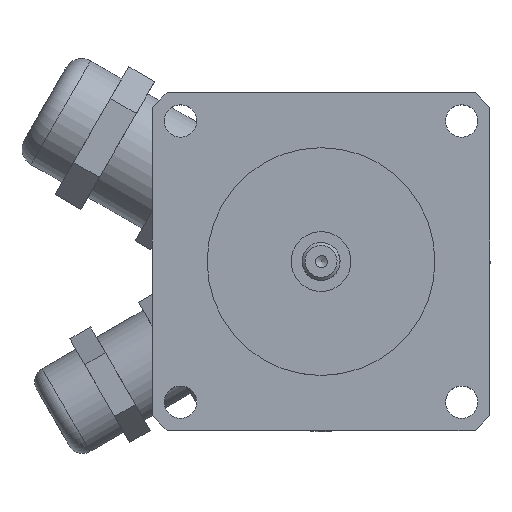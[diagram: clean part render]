
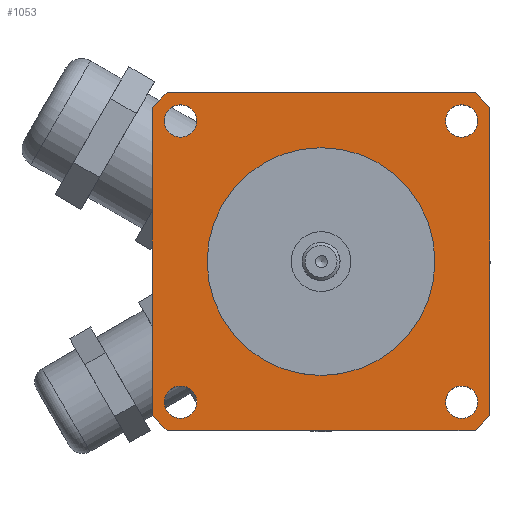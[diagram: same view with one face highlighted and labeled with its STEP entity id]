
A CAD part, top view. The second image highlights one B-rep face of the part: STEP entity #1053.
In plain terms, the highlighted planar face has unit normal (0, 0, 1).
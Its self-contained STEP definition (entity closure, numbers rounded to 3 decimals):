
#685=CARTESIAN_POINT('',(19.05,0.,42.7));
#686=VERTEX_POINT('',#685);
#687=CARTESIAN_POINT('',(0.,0.,42.7));
#688=DIRECTION('',(0.0,0.0,-1.0));
#689=DIRECTION('',(-1.0,0.0,0.0));
#690=AXIS2_PLACEMENT_3D('',#687,#688,#689);
#691=CIRCLE('',#690,19.05);
#692=EDGE_CURVE('',#686,#686,#691,.T.);
#735=CARTESIAN_POINT('',(26.211,23.511,42.7));
#736=VERTEX_POINT('',#735);
#737=CARTESIAN_POINT('',(23.511,23.511,42.7));
#738=DIRECTION('',(0.0,0.0,-1.0));
#739=DIRECTION('',(-1.0,0.0,0.0));
#740=AXIS2_PLACEMENT_3D('',#737,#738,#739);
#741=CIRCLE('',#740,2.7);
#742=EDGE_CURVE('',#736,#736,#741,.T.);
#755=CARTESIAN_POINT('',(26.211,-23.511,42.7));
#756=VERTEX_POINT('',#755);
#757=CARTESIAN_POINT('',(23.511,-23.511,42.7));
#758=DIRECTION('',(0.0,0.0,-1.0));
#759=DIRECTION('',(-1.0,0.0,0.0));
#760=AXIS2_PLACEMENT_3D('',#757,#758,#759);
#761=CIRCLE('',#760,2.7);
#762=EDGE_CURVE('',#756,#756,#761,.T.);
#775=CARTESIAN_POINT('',(-20.811,23.511,42.7));
#776=VERTEX_POINT('',#775);
#777=CARTESIAN_POINT('',(-23.511,23.511,42.7));
#778=DIRECTION('',(0.0,0.0,-1.0));
#779=DIRECTION('',(-1.0,0.0,0.0));
#780=AXIS2_PLACEMENT_3D('',#777,#778,#779);
#781=CIRCLE('',#780,2.7);
#782=EDGE_CURVE('',#776,#776,#781,.T.);
#795=CARTESIAN_POINT('',(-20.811,-23.511,42.7));
#796=VERTEX_POINT('',#795);
#797=CARTESIAN_POINT('',(-23.511,-23.511,42.7));
#798=DIRECTION('',(0.0,0.0,-1.0));
#799=DIRECTION('',(-1.0,0.0,0.0));
#800=AXIS2_PLACEMENT_3D('',#797,#798,#799);
#801=CIRCLE('',#800,2.7);
#802=EDGE_CURVE('',#796,#796,#801,.T.);
#815=CARTESIAN_POINT('',(25.75,28.25,42.7));
#816=VERTEX_POINT('',#815);
#817=CARTESIAN_POINT('',(28.25,25.75,42.7));
#818=VERTEX_POINT('',#817);
#819=CARTESIAN_POINT('',(25.75,28.25,42.7));
#820=DIRECTION('',(0.707,-0.707,0.0));
#821=VECTOR('',#820,3.536);
#822=LINE('',#819,#821);
#823=EDGE_CURVE('',#816,#818,#822,.T.);
#846=CARTESIAN_POINT('',(28.25,-25.75,42.7));
#847=VERTEX_POINT('',#846);
#848=CARTESIAN_POINT('',(28.25,25.75,42.7));
#849=DIRECTION('',(0.0,-1.0,0.0));
#850=VECTOR('',#849,51.5);
#851=LINE('',#848,#850);
#852=EDGE_CURVE('',#818,#847,#851,.T.);
#873=CARTESIAN_POINT('',(25.75,-28.25,42.7));
#874=VERTEX_POINT('',#873);
#875=CARTESIAN_POINT('',(28.25,-25.75,42.7));
#876=DIRECTION('',(-0.707,-0.707,0.0));
#877=VECTOR('',#876,3.536);
#878=LINE('',#875,#877);
#879=EDGE_CURVE('',#847,#874,#878,.T.);
#897=CARTESIAN_POINT('',(-25.75,-28.25,42.7));
#898=VERTEX_POINT('',#897);
#899=CARTESIAN_POINT('',(25.75,-28.25,42.7));
#900=DIRECTION('',(-1.0,0.0,0.0));
#901=VECTOR('',#900,51.5);
#902=LINE('',#899,#901);
#903=EDGE_CURVE('',#874,#898,#902,.T.);
#923=CARTESIAN_POINT('',(-28.25,-25.75,42.7));
#924=VERTEX_POINT('',#923);
#925=CARTESIAN_POINT('',(-25.75,-28.25,42.7));
#926=DIRECTION('',(-0.707,0.707,0.0));
#927=VECTOR('',#926,3.536);
#928=LINE('',#925,#927);
#929=EDGE_CURVE('',#898,#924,#928,.T.);
#947=CARTESIAN_POINT('',(-28.25,25.75,42.7));
#948=VERTEX_POINT('',#947);
#949=CARTESIAN_POINT('',(-28.25,-25.75,42.7));
#950=DIRECTION('',(0.0,1.0,0.0));
#951=VECTOR('',#950,51.5);
#952=LINE('',#949,#951);
#953=EDGE_CURVE('',#924,#948,#952,.T.);
#973=CARTESIAN_POINT('',(-25.75,28.25,42.7));
#974=VERTEX_POINT('',#973);
#975=CARTESIAN_POINT('',(-28.25,25.75,42.7));
#976=DIRECTION('',(0.707,0.707,0.0));
#977=VECTOR('',#976,3.536);
#978=LINE('',#975,#977);
#979=EDGE_CURVE('',#948,#974,#978,.T.);
#997=CARTESIAN_POINT('',(-25.75,28.25,42.7));
#998=DIRECTION('',(1.0,0.0,0.0));
#999=VECTOR('',#998,51.5);
#1000=LINE('',#997,#999);
#1001=EDGE_CURVE('',#974,#816,#1000,.T.);
#1023=CARTESIAN_POINT('',(0.,0.,42.7));
#1024=DIRECTION('',(0.0,0.0,1.0));
#1025=DIRECTION('',(1.0,0.0,0.0));
#1026=AXIS2_PLACEMENT_3D('',#1023,#1024,#1025);
#1027=PLANE('',#1026);
#1028=ORIENTED_EDGE('',*,*,#823,.F.);
#1029=ORIENTED_EDGE('',*,*,#1001,.F.);
#1030=ORIENTED_EDGE('',*,*,#979,.F.);
#1031=ORIENTED_EDGE('',*,*,#953,.F.);
#1032=ORIENTED_EDGE('',*,*,#929,.F.);
#1033=ORIENTED_EDGE('',*,*,#903,.F.);
#1034=ORIENTED_EDGE('',*,*,#879,.F.);
#1035=ORIENTED_EDGE('',*,*,#852,.F.);
#1036=EDGE_LOOP('',(#1028,#1029,#1030,#1031,#1032,#1033,#1034,#1035));
#1037=FACE_OUTER_BOUND('',#1036,.T.);
#1038=ORIENTED_EDGE('',*,*,#692,.T.);
#1039=EDGE_LOOP('',(#1038));
#1040=FACE_BOUND('',#1039,.T.);
#1041=ORIENTED_EDGE('',*,*,#742,.T.);
#1042=EDGE_LOOP('',(#1041));
#1043=FACE_BOUND('',#1042,.T.);
#1044=ORIENTED_EDGE('',*,*,#762,.T.);
#1045=EDGE_LOOP('',(#1044));
#1046=FACE_BOUND('',#1045,.T.);
#1047=ORIENTED_EDGE('',*,*,#782,.T.);
#1048=EDGE_LOOP('',(#1047));
#1049=FACE_BOUND('',#1048,.T.);
#1050=ORIENTED_EDGE('',*,*,#802,.T.);
#1051=EDGE_LOOP('',(#1050));
#1052=FACE_BOUND('',#1051,.T.);
#1053=ADVANCED_FACE('',(#1037,#1040,#1043,#1046,#1049,#1052),#1027,.T.);
